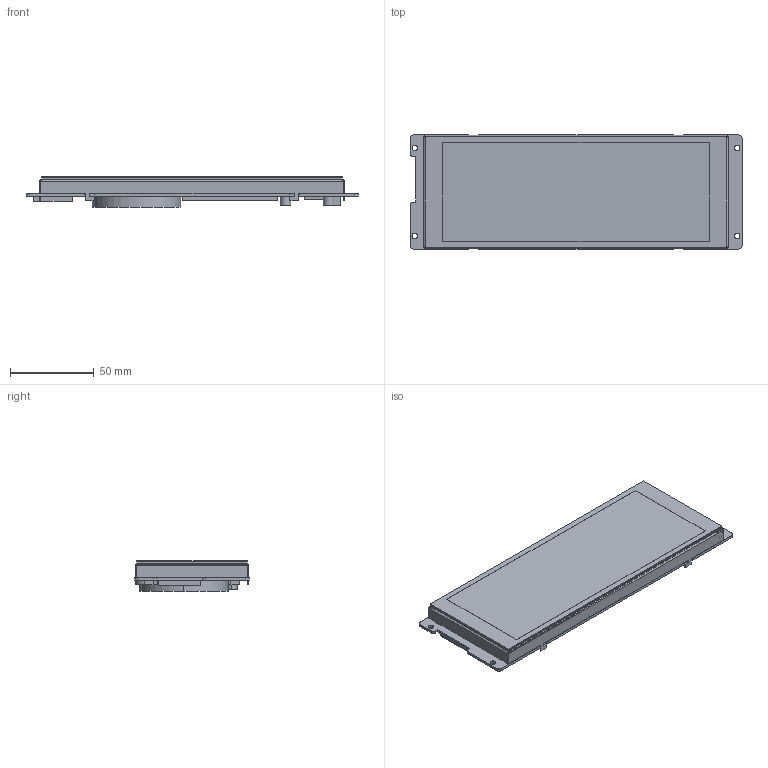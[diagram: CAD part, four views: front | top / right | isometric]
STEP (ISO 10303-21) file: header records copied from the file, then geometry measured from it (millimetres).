
FILE_DESCRIPTION((''),'2;1');
FILE_NAME('6-8_ASM20191016_ASM','2024-10-21T',('Administrator'),(''),'PRO/ENGINEER BY PARAMETRIC TECHNOLOGY CORPORATION, 2014320','PRO/ENGINEER BY PARAMETRIC TECHNOLOGY CORPORATION, 2014320','');
FILE_SCHEMA(('CONFIG_CONTROL_DESIGN','SHAPE_APPEARANCE_LAYERS_GROUPS'));
Length unit declared in the file: millimetre
Products named in the file (6): 6-8-BOX_28; LCM_3_2; 6-8_ASM_24_ASM; CTP; PCB241021; 6-8_ASM20191016_ASM
Assembly tree (5 placements, depth 3):
  6-8_ASM20191016_ASM
    6-8_ASM_24_ASM
      6-8-BOX_28
      LCM_3_2
    CTP
    PCB241021
Bounding box: 198.8 x 68.3 x 18.28 mm (x, y, z)
Volume: 126459.9 mm3; surface area: 95521.3 mm2
Topology: 4 solids, 4 shells, 252 faces, 658 edges, 428 vertices
Faces by surface type: plane 180, cylinder 48, bspline 24
Entity records: 10633 total; most frequent: CARTESIAN_POINT 2274, ORIENTED_EDGE 1316, DIRECTION 1172, PRESENTATION_STYLE_ASSIGNMENT 666, STYLED_ITEM 663, CURVE_STYLE 658, EDGE_CURVE 658, VECTOR 530
